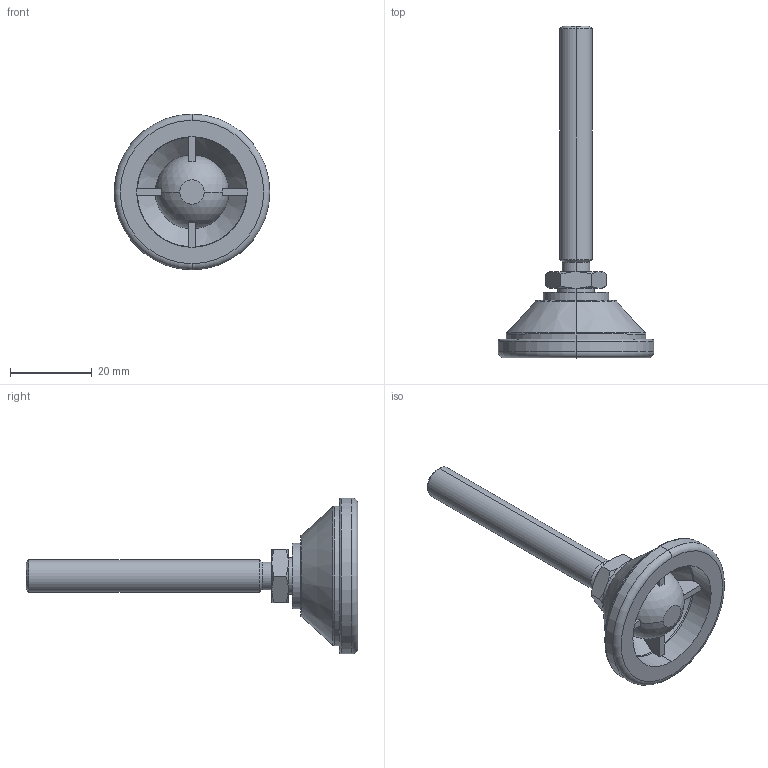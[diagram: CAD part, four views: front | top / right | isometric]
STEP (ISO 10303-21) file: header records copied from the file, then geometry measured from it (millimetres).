
FILE_DESCRIPTION (( 'STEP AP203' ), '1' );
FILE_NAME ('3472.W084.step', '2009-10-21T16:58:15', ( 'Wixroyd' ), ( 'Wixroyd' ), 'SwSTEP 2.0', 'SolidWorks 2009', '' );
FILE_SCHEMA (( 'CONFIG_CONTROL_DESIGN' ));
Length unit declared in the file: millimetre
Products named in the file (3): Part2_3472W084; Part1_3472W084; 3472.W084
Assembly tree (2 placements, depth 2):
  3472.W084
    Part2_3472W084
    Part1_3472W084
Bounding box: 38 x 81 x 38 mm (x, y, z)
Volume: 11689.6 mm3; surface area: 7425.6 mm2
Topology: 2 solids, 2 shells, 83 faces, 202 edges, 126 vertices
Faces by surface type: plane 27, cone 22, cylinder 16, torus 12, sphere 6
Entity records: 2817 total; most frequent: CARTESIAN_POINT 602, DIRECTION 438, ORIENTED_EDGE 386, AXIS2_PLACEMENT_3D 197, EDGE_CURVE 193, VERTEX_POINT 121, CIRCLE 109, EDGE_LOOP 90
